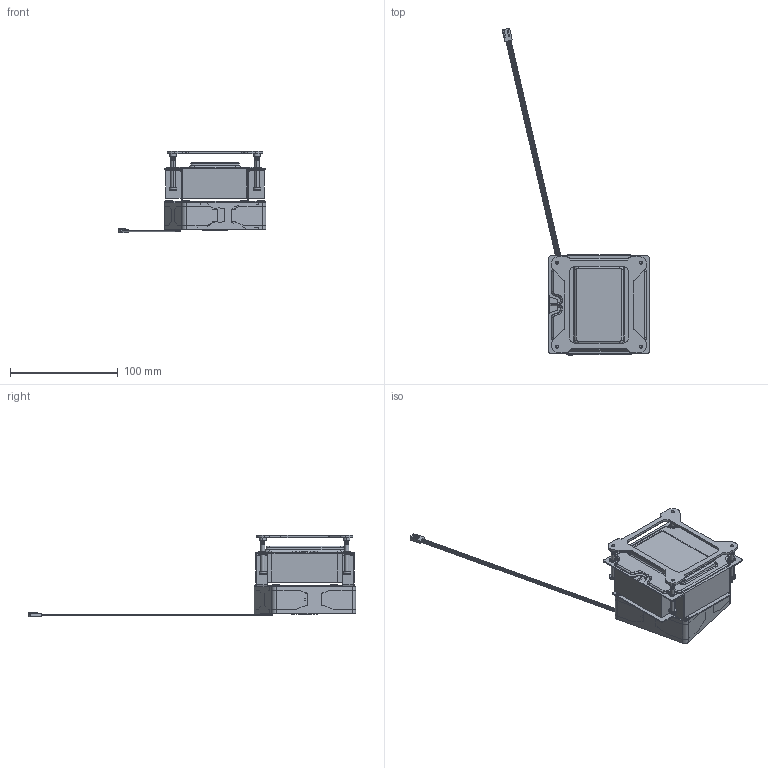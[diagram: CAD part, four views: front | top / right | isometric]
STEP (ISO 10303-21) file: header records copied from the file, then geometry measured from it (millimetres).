
FILE_DESCRIPTION((''),'2;1');
FILE_NAME('RGD3224VC-EF48-002_ME_ASM','2022-10-11T',('User'),(''),'PRO/ENGINEER BY PARAMETRIC TECHNOLOGY CORPORATION, 2017170','PRO/ENGINEER BY PARAMETRIC TECHNOLOGY CORPORATION, 2017170','');
FILE_SCHEMA(('CONFIG_CONTROL_DESIGN'));
Products named in the file (21): XQGP-267000320_1_1_1; R8025_20191212_1_1; 4PIN_1_1_1; 4PIN_1_2_1; 4PIN_1_3_1; 4PIN_1_ASM_1_ASM; R128025BUAF325AR_ASM_1_ASM_1_ASM; FAN_COVER_8025_1_1; T5_10L_SCREW_1_1; R128025BUAF325AR_25H_ASSY_ASM_1_ASM; DEAKTOP_SCREW_D7_30_8L_1_1; NETW3_1_1; SCREW_ASSY_ASM_1_ASM_1_ASM; 850-BP-1700-5_1_1; ADHESIVE_1_1; MYLAR_1_1; 850-BP1700-5_ASM_1_ASM_1_ASM; RGD3224VC-EF48-002_ASM_1_ASM_1_ASM; ASM0002_ASM_1_ASM; LABEL_RGE-ST001-1; RGD3224VC-EF48-002_ME_ASM
Assembly tree (26 placements, depth 7):
  RGD3224VC-EF48-002_ME_ASM
    ASM0002_ASM_1_ASM
      RGD3224VC-EF48-002_ASM_1_ASM_1_ASM
        XQGP-267000320_1_1_1
        R128025BUAF325AR_25H_ASSY_ASM_1_ASM
          R128025BUAF325AR_ASM_1_ASM_1_ASM
            R8025_20191212_1_1
            4PIN_1_ASM_1_ASM
              4PIN_1_1_1
              4PIN_1_2_1
              4PIN_1_3_1
          FAN_COVER_8025_1_1
          T5_10L_SCREW_1_1  x4
        SCREW_ASSY_ASM_1_ASM_1_ASM  x4
          DEAKTOP_SCREW_D7_30_8L_1_1
          NETW3_1_1
        850-BP1700-5_ASM_1_ASM_1_ASM
          850-BP-1700-5_1_1
          ADHESIVE_1_1
          MYLAR_1_1
    LABEL_RGE-ST001-1
Bounding box: 137.08 x 304.08 x 76.15 mm (x, y, z)
Volume: 404529.3 mm3; surface area: 104169.4 mm2
Topology: 22 solids, 24 shells, 1877 faces, 5104 edges, 3350 vertices
Faces by surface type: plane 901, cylinder 648, extrusion 97, torus 89, bspline 63, cone 57, sphere 22
Entity records: 60967 total; most frequent: CARTESIAN_POINT 16493, ORIENTED_EDGE 8682, DIRECTION 8293, EDGE_CURVE 4345, VERTEX_POINT 2872, AXIS2_PLACEMENT_3D 2836, VECTOR 2621, LINE 2524
